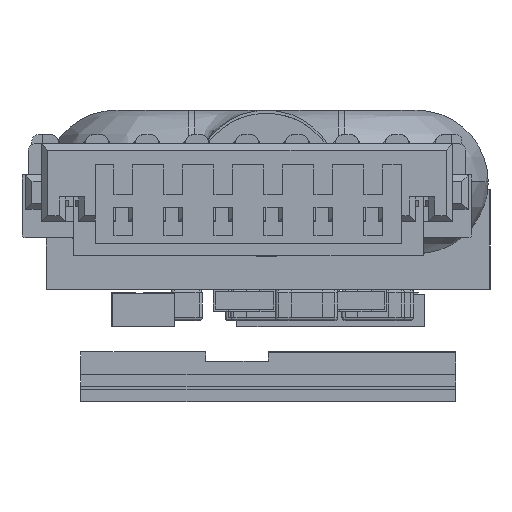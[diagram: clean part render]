
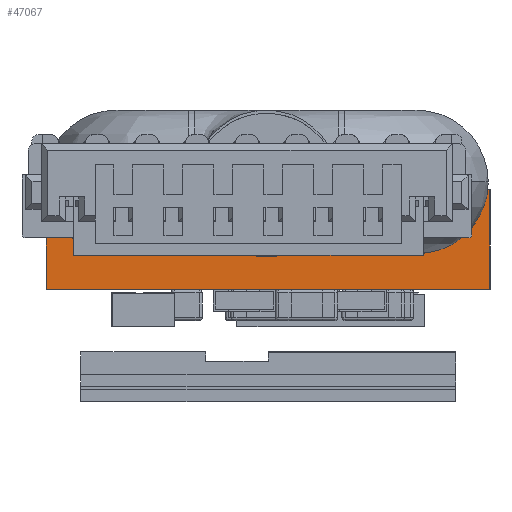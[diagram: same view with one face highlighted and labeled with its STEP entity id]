
A CAD part, left-side view. The second image highlights one B-rep face of the part: STEP entity #47067.
In plain terms, the highlighted planar face has unit normal (-1, 0, 0).
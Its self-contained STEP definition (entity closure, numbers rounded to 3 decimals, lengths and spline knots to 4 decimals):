
#46016=DIRECTION('',(0.,0.,1.));
#46017=VECTOR('',#46016,1.6);
#46018=CARTESIAN_POINT('',(0.1,6.55,0.));
#46019=LINE('',#46018,#46017);
#46091=DIRECTION('',(0.,-1.,0.));
#46092=VECTOR('',#46091,7.1);
#46093=CARTESIAN_POINT('',(0.1,6.55,0.));
#46094=LINE('',#46093,#46092);
#46424=DIRECTION('',(0.,1.,0.));
#46425=VECTOR('',#46424,7.1);
#46426=CARTESIAN_POINT('',(0.1,-0.55,1.6));
#46427=LINE('',#46426,#46425);
#46871=DIRECTION('',(0.,0.,1.));
#46872=VECTOR('',#46871,1.6);
#46873=CARTESIAN_POINT('',(0.1,-0.55,0.));
#46874=LINE('',#46873,#46872);
#46908=CARTESIAN_POINT('',(0.1,-0.55,0.));
#46909=CARTESIAN_POINT('',(0.1,-0.55,1.6));
#46910=VERTEX_POINT('',#46908);
#46911=VERTEX_POINT('',#46909);
#46916=CARTESIAN_POINT('',(0.1,6.55,0.));
#46917=CARTESIAN_POINT('',(0.1,6.55,1.6));
#46918=VERTEX_POINT('',#46916);
#46919=VERTEX_POINT('',#46917);
#47052=CARTESIAN_POINT('',(0.1,6.,0.));
#47053=DIRECTION('',(1.,0.,0.));
#47054=DIRECTION('',(0.,-1.,0.));
#47055=AXIS2_PLACEMENT_3D('',#47052,#47053,#47054);
#47056=PLANE('',#47055);
#47058=ORIENTED_EDGE('',*,*,#47057,.T.);
#47060=ORIENTED_EDGE('',*,*,#47059,.F.);
#47062=ORIENTED_EDGE('',*,*,#47061,.F.);
#47064=ORIENTED_EDGE('',*,*,#47063,.F.);
#47065=EDGE_LOOP('',(#47058,#47060,#47062,#47064));
#47066=FACE_OUTER_BOUND('',#47065,.F.);
#47067=ADVANCED_FACE('',(#47066),#47056,.F.);
#47057=EDGE_CURVE('',#46918,#46919,#46019,.T.);
#47059=EDGE_CURVE('',#46911,#46919,#46427,.T.);
#47061=EDGE_CURVE('',#46910,#46911,#46874,.T.);
#47063=EDGE_CURVE('',#46918,#46910,#46094,.T.);
